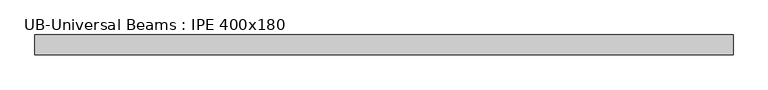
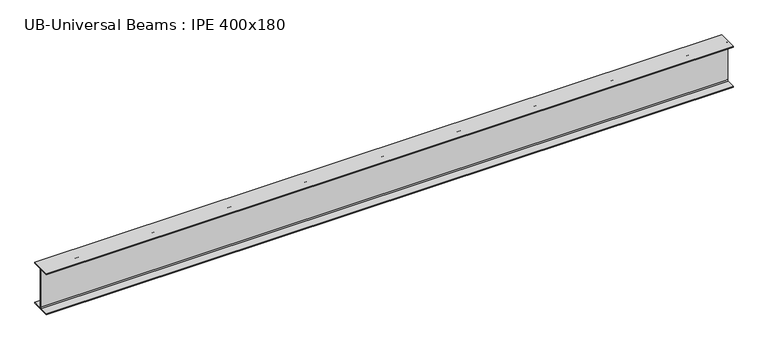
"""IFC4 building model written with IfcOpenShell, lengths in millimetres: beam geometry, UB-Universal Beams : IPE 400x180."""

from ifc_helpers import new_model, si_unit, point, frame, frame_2d, origin, place, context, project, spatial, polyline, circle_curve, trimmed, segment, composite_curve, outline, extrude, source, transform, mapped, element, save


def ub_universal_beams_ipe_400x180_5f841415(model_context):
    return source(origin(), model_context, "Body", "SweptSolid", [
        extrude(outline(composite_curve([segment(polyline([(-90.0, -189.8), (-11.9, -189.8)]), True, "CONTINUOUS"), segment(trimmed(circle_curve(frame_2d((-11.9, -180.9)), 8.9), [point((-11.9, -189.8))], [point((-3.0, -180.9))], True, "CARTESIAN"), True, "CONTINUOUS"), segment(polyline([(-3.0, -180.9), (-3.0, 180.9)]), True, "CONTINUOUS"), segment(trimmed(circle_curve(frame_2d((-11.9, 180.9)), 8.9), [point((-3.0, 180.9))], [point((-11.9, 189.8))], True, "CARTESIAN"), True, "CONTINUOUS"), segment(polyline([(-11.9, 189.8), (-90.0, 189.8), (-90.0, 200.0), (90.0, 200.0), (90.0, 189.8), (11.9, 189.8)]), True, "CONTINUOUS"), segment(trimmed(circle_curve(frame_2d((11.9, 180.9)), 8.9), [point((11.9, 189.8))], [point((3.0, 180.9))], True, "CARTESIAN"), True, "CONTINUOUS"), segment(polyline([(3.0, 180.9), (3.0, -180.9)]), True, "CONTINUOUS"), segment(trimmed(circle_curve(frame_2d((11.9, -180.9)), 8.9), [point((3.0, -180.9))], [point((11.9, -189.8))], True, "CARTESIAN"), True, "CONTINUOUS"), segment(polyline([(11.9, -189.8), (90.0, -189.8), (90.0, -200.0), (-90.0, -200.0), (-90.0, -189.8)]), True, "CONTINUOUS")], self_intersect=False)), frame((-3040.05, 0.0, 0.0), z_axis=(1.0, 0.0, 0.0), x_axis=(0.0, 1.0, 0.0)), (0.0, 0.0, 1.0), 6330.2),
    ])


if __name__ == "__main__":
    model = new_model("IFC4")
    model_context = context("Model", 3, world=origin())
    ifc_project = project(units=[si_unit("LENGTHUNIT", "METRE", prefix="MILLI")], contexts=[model_context])
    site = spatial("IfcSite", under=ifc_project)
    building = spatial("IfcBuilding", under=site)
    placement = place(None, origin())
    ub_universal_beams_ipe_400x180_shape = ub_universal_beams_ipe_400x180_5f841415(model_context)
    element("IfcBeam", 1, ObjectType="UB-Universal Beams : IPE 400x180", at=placement, inside=building, context=model_context, shape_type="MappedRepresentation", body=[
        mapped(ub_universal_beams_ipe_400x180_shape, transform((0.0, 0.0, 0.0), x_axis=(1.0, 0.0, 0.0), y_axis=(0.0, 1.0, 0.0), z_axis=(0.0, 0.0, 1.0))),
    ])
    save(model, "model.ifc")
